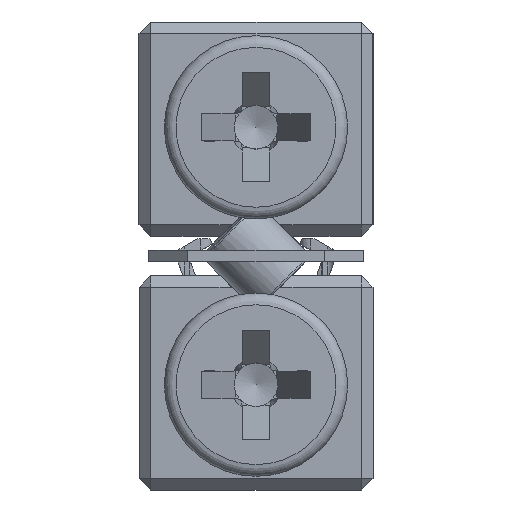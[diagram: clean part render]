
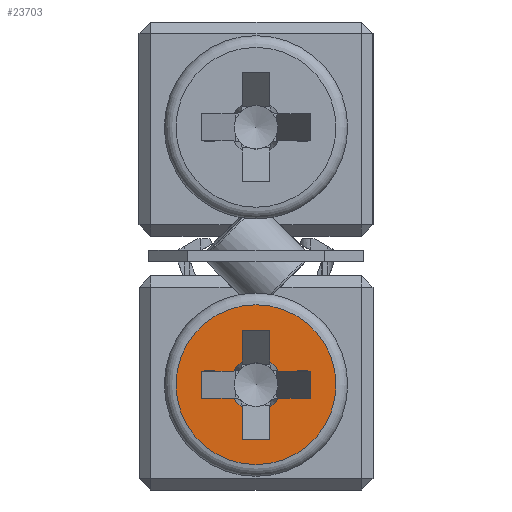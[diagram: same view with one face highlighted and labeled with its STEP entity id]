
A CAD part, left-side view. The second image highlights one B-rep face of the part: STEP entity #23703.
In plain terms, the highlighted planar face has unit normal (-1, 0, 0).
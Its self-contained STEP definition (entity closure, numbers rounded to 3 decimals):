
#448 = CARTESIAN_POINT ( 'NONE',  ( -84., 0., 2.7 ) ) ;
#759 = LINE ( 'NONE', #34325, #9322 ) ;
#989 = VECTOR ( 'NONE', #25073, 1000. ) ;
#1077 = CARTESIAN_POINT ( 'NONE',  ( -84., 0.35, 1.3 ) ) ;
#1460 = LINE ( 'NONE', #15101, #16984 ) ;
#1544 = FACE_BOUND ( 'NONE', #35290, .T. ) ;
#1838 = VERTEX_POINT ( 'NONE', #9991 ) ;
#2774 = ORIENTED_EDGE ( 'NONE', *, *, #23528, .F. ) ;
#2936 = EDGE_CURVE ( 'NONE', #35228, #20290, #18750, .T. ) ;
#3572 = EDGE_CURVE ( 'NONE', #34774, #34530, #34090, .T. ) ;
#3781 = CIRCLE ( 'NONE', #30856, 2.05 ) ;
#4204 = ORIENTED_EDGE ( 'NONE', *, *, #27318, .T. ) ;
#4615 = ORIENTED_EDGE ( 'NONE', *, *, #10014, .T. ) ;
#5128 = VERTEX_POINT ( 'NONE', #27426 ) ;
#5378 = VECTOR ( 'NONE', #18625, 1000. ) ;
#6724 = CARTESIAN_POINT ( 'NONE',  ( -84., 1.4, 3.05 ) ) ;
#7305 = CARTESIAN_POINT ( 'NONE',  ( -84., -0.35, 3.281 ) ) ;
#8528 = LINE ( 'NONE', #22904, #16524 ) ;
#9198 = CARTESIAN_POINT ( 'NONE',  ( -84., -0.35, 4.1 ) ) ;
#9235 = CARTESIAN_POINT ( 'NONE',  ( -84., -0.581, 2.35 ) ) ;
#9322 = VECTOR ( 'NONE', #23431, 1000. ) ;
#9375 = CARTESIAN_POINT ( 'NONE',  ( -84., -1.4, 2.35 ) ) ;
#9913 = DIRECTION ( 'NONE',  ( 0., 0., 1. ) ) ;
#9991 = CARTESIAN_POINT ( 'NONE',  ( -84., -0.35, 4.1 ) ) ;
#10014 = EDGE_CURVE ( 'NONE', #19269, #30729, #30687, .T. ) ;
#10510 = LINE ( 'NONE', #13097, #14029 ) ;
#10533 = AXIS2_PLACEMENT_3D ( 'NONE', #29565, #15538, #34737 ) ;
#11044 = ORIENTED_EDGE ( 'NONE', *, *, #35998, .F. ) ;
#11383 = EDGE_CURVE ( 'NONE', #24826, #13695, #8528, .T. ) ;
#11696 = DIRECTION ( 'NONE',  ( -1., 0., 0. ) ) ;
#11972 = LINE ( 'NONE', #9198, #20993 ) ;
#12151 = EDGE_LOOP ( 'NONE', ( #27102 ) ) ;
#12333 = CARTESIAN_POINT ( 'NONE',  ( -84., 0., 2.7 ) ) ;
#12780 = VERTEX_POINT ( 'NONE', #31389 ) ;
#12782 = PLANE ( 'NONE',  #17872 ) ;
#13097 = CARTESIAN_POINT ( 'NONE',  ( -84., 0.35, 1.3 ) ) ;
#13283 = ORIENTED_EDGE ( 'NONE', *, *, #20200, .F. ) ;
#13350 = VECTOR ( 'NONE', #32422, 1000. ) ;
#13636 = ORIENTED_EDGE ( 'NONE', *, *, #35695, .F. ) ;
#13695 = VERTEX_POINT ( 'NONE', #15735 ) ;
#14029 = VECTOR ( 'NONE', #18979, 1000. ) ;
#14132 = CARTESIAN_POINT ( 'NONE',  ( -84., 0.35, 1.3 ) ) ;
#14172 = ORIENTED_EDGE ( 'NONE', *, *, #11383, .T. ) ;
#14917 = ORIENTED_EDGE ( 'NONE', *, *, #16973, .F. ) ;
#15101 = CARTESIAN_POINT ( 'NONE',  ( -84., 0.35, 1.3 ) ) ;
#15118 = ORIENTED_EDGE ( 'NONE', *, *, #30438, .F. ) ;
#15148 = CARTESIAN_POINT ( 'NONE',  ( -84., -0.581, 3.05 ) ) ;
#15330 = CARTESIAN_POINT ( 'NONE',  ( -84., 0.35, 3.281 ) ) ;
#15538 = DIRECTION ( 'NONE',  ( -1., 0., 0. ) ) ;
#15539 = FACE_OUTER_BOUND ( 'NONE', #12151, .T. ) ;
#15735 = CARTESIAN_POINT ( 'NONE',  ( -84., 1.4, 2.35 ) ) ;
#15737 = DIRECTION ( 'NONE',  ( -1., 0., 0. ) ) ;
#15791 = VECTOR ( 'NONE', #9913, 1000. ) ;
#16479 = EDGE_CURVE ( 'NONE', #34774, #30282, #19528, .T. ) ;
#16524 = VECTOR ( 'NONE', #34159, 1000. ) ;
#16973 = EDGE_CURVE ( 'NONE', #17224, #30729, #29218, .T. ) ;
#16984 = VECTOR ( 'NONE', #29479, 1000. ) ;
#17224 = VERTEX_POINT ( 'NONE', #15330 ) ;
#17649 = VERTEX_POINT ( 'NONE', #31309 ) ;
#17674 = DIRECTION ( 'NONE',  ( 0., 0., -1. ) ) ;
#17872 = AXIS2_PLACEMENT_3D ( 'NONE', #24032, #35287, #21256 ) ;
#18010 = EDGE_CURVE ( 'NONE', #24826, #20290, #33972, .T. ) ;
#18016 = VECTOR ( 'NONE', #28172, 1000. ) ;
#18214 = ORIENTED_EDGE ( 'NONE', *, *, #18010, .F. ) ;
#18367 = CARTESIAN_POINT ( 'NONE',  ( -84., 0., 2.7 ) ) ;
#18481 = EDGE_CURVE ( 'NONE', #32278, #12780, #28769, .T. ) ;
#18625 = DIRECTION ( 'NONE',  ( 0., -1., 0. ) ) ;
#18750 = LINE ( 'NONE', #1077, #15791 ) ;
#18979 = DIRECTION ( 'NONE',  ( 0., -1., 0. ) ) ;
#19269 = VERTEX_POINT ( 'NONE', #6724 ) ;
#19331 = ORIENTED_EDGE ( 'NONE', *, *, #16479, .T. ) ;
#19385 = DIRECTION ( 'NONE',  ( -1., 0., 0. ) ) ;
#19528 = LINE ( 'NONE', #31526, #25653 ) ;
#20200 = EDGE_CURVE ( 'NONE', #19269, #13695, #759, .T. ) ;
#20290 = VERTEX_POINT ( 'NONE', #32281 ) ;
#20409 = CARTESIAN_POINT ( 'NONE',  ( -84., -1.4, 2.35 ) ) ;
#20993 = VECTOR ( 'NONE', #17674, 1000. ) ;
#21012 = CARTESIAN_POINT ( 'NONE',  ( -84., -0.35, 1.3 ) ) ;
#21256 = DIRECTION ( 'NONE',  ( 0., 0., -1. ) ) ;
#21402 = AXIS2_PLACEMENT_3D ( 'NONE', #448, #11696, #22938 ) ;
#21562 = VERTEX_POINT ( 'NONE', #9375 ) ;
#21615 = AXIS2_PLACEMENT_3D ( 'NONE', #18367, #29622, #33126 ) ;
#22184 = VECTOR ( 'NONE', #31184, 1000. ) ;
#22904 = CARTESIAN_POINT ( 'NONE',  ( -84., -1.4, 2.35 ) ) ;
#22938 = DIRECTION ( 'NONE',  ( 0., 0., 1. ) ) ;
#23431 = DIRECTION ( 'NONE',  ( 0., 0., -1. ) ) ;
#23528 = EDGE_CURVE ( 'NONE', #32278, #36269, #36129, .T. ) ;
#23703 = ADVANCED_FACE ( 'NONE', ( #15539, #1544 ), #12782, .F. ) ;
#23789 = ORIENTED_EDGE ( 'NONE', *, *, #3572, .F. ) ;
#23888 = EDGE_CURVE ( 'NONE', #5128, #5128, #3781, .T. ) ;
#23934 = CARTESIAN_POINT ( 'NONE',  ( -84., -0.35, 4.1 ) ) ;
#24032 = CARTESIAN_POINT ( 'NONE',  ( -84., 2.35, 2.7 ) ) ;
#24049 = CARTESIAN_POINT ( 'NONE',  ( -84., 0., 2.7 ) ) ;
#24826 = VERTEX_POINT ( 'NONE', #28065 ) ;
#25073 = DIRECTION ( 'NONE',  ( 0., 0., 1. ) ) ;
#25653 = VECTOR ( 'NONE', #30794, 1000. ) ;
#26980 = DIRECTION ( 'NONE',  ( 0., 0., 1. ) ) ;
#27058 = LINE ( 'NONE', #23934, #13350 ) ;
#27102 = ORIENTED_EDGE ( 'NONE', *, *, #23888, .T. ) ;
#27318 = EDGE_CURVE ( 'NONE', #21562, #34530, #28543, .T. ) ;
#27426 = CARTESIAN_POINT ( 'NONE',  ( -84., 0., 0.65 ) ) ;
#27647 = LINE ( 'NONE', #33554, #989 ) ;
#28054 = DIRECTION ( 'NONE',  ( 0., 0., -1. ) ) ;
#28065 = CARTESIAN_POINT ( 'NONE',  ( -84., 0.581, 2.35 ) ) ;
#28172 = DIRECTION ( 'NONE',  ( 0., 1., 0. ) ) ;
#28426 = ORIENTED_EDGE ( 'NONE', *, *, #32731, .T. ) ;
#28543 = LINE ( 'NONE', #20409, #18016 ) ;
#28769 = LINE ( 'NONE', #28943, #22184 ) ;
#28943 = CARTESIAN_POINT ( 'NONE',  ( -84., 1.4, 3.05 ) ) ;
#29218 = CIRCLE ( 'NONE', #32180, 0.678 ) ;
#29479 = DIRECTION ( 'NONE',  ( 0., 0., 1. ) ) ;
#29565 = CARTESIAN_POINT ( 'NONE',  ( -84., 0., 2.7 ) ) ;
#29622 = DIRECTION ( 'NONE',  ( -1., 0., 0. ) ) ;
#29646 = ORIENTED_EDGE ( 'NONE', *, *, #18481, .T. ) ;
#29671 = ORIENTED_EDGE ( 'NONE', *, *, #35900, .T. ) ;
#30282 = VERTEX_POINT ( 'NONE', #21012 ) ;
#30438 = EDGE_CURVE ( 'NONE', #35228, #30282, #10510, .T. ) ;
#30687 = LINE ( 'NONE', #31562, #5378 ) ;
#30691 = CARTESIAN_POINT ( 'NONE',  ( -84., 0.581, 3.05 ) ) ;
#30729 = VERTEX_POINT ( 'NONE', #30691 ) ;
#30794 = DIRECTION ( 'NONE',  ( 0., 0., -1. ) ) ;
#30856 = AXIS2_PLACEMENT_3D ( 'NONE', #12333, #19385, #28054 ) ;
#31184 = DIRECTION ( 'NONE',  ( 0., -1., 0. ) ) ;
#31309 = CARTESIAN_POINT ( 'NONE',  ( -84., 0.35, 4.1 ) ) ;
#31389 = CARTESIAN_POINT ( 'NONE',  ( -84., -1.4, 3.05 ) ) ;
#31526 = CARTESIAN_POINT ( 'NONE',  ( -84., -0.35, 4.1 ) ) ;
#31562 = CARTESIAN_POINT ( 'NONE',  ( -84., 1.4, 3.05 ) ) ;
#32180 = AXIS2_PLACEMENT_3D ( 'NONE', #24049, #15737, #26980 ) ;
#32278 = VERTEX_POINT ( 'NONE', #15148 ) ;
#32281 = CARTESIAN_POINT ( 'NONE',  ( -84., 0.35, 2.119 ) ) ;
#32422 = DIRECTION ( 'NONE',  ( 0., 1., 0. ) ) ;
#32731 = EDGE_CURVE ( 'NONE', #17224, #17649, #1460, .T. ) ;
#33126 = DIRECTION ( 'NONE',  ( 0., 0., 1. ) ) ;
#33554 = CARTESIAN_POINT ( 'NONE',  ( -84., -1.4, 2.35 ) ) ;
#33972 = CIRCLE ( 'NONE', #21615, 0.678 ) ;
#34090 = CIRCLE ( 'NONE', #10533, 0.678 ) ;
#34159 = DIRECTION ( 'NONE',  ( 0., 1., 0. ) ) ;
#34325 = CARTESIAN_POINT ( 'NONE',  ( -84., 1.4, 3.05 ) ) ;
#34530 = VERTEX_POINT ( 'NONE', #9235 ) ;
#34634 = CARTESIAN_POINT ( 'NONE',  ( -84., -0.35, 2.119 ) ) ;
#34737 = DIRECTION ( 'NONE',  ( 0., 0., 1. ) ) ;
#34774 = VERTEX_POINT ( 'NONE', #34634 ) ;
#35228 = VERTEX_POINT ( 'NONE', #14132 ) ;
#35287 = DIRECTION ( 'NONE',  ( 1., 0., 0. ) ) ;
#35290 = EDGE_LOOP ( 'NONE', ( #23789, #19331, #15118, #36380, #18214, #14172, #13283, #4615, #14917, #28426, #11044, #29671, #2774, #29646, #13636, #4204 ) ) ;
#35695 = EDGE_CURVE ( 'NONE', #21562, #12780, #27647, .T. ) ;
#35900 = EDGE_CURVE ( 'NONE', #1838, #36269, #11972, .T. ) ;
#35998 = EDGE_CURVE ( 'NONE', #1838, #17649, #27058, .T. ) ;
#36129 = CIRCLE ( 'NONE', #21402, 0.678 ) ;
#36269 = VERTEX_POINT ( 'NONE', #7305 ) ;
#36380 = ORIENTED_EDGE ( 'NONE', *, *, #2936, .T. ) ;
